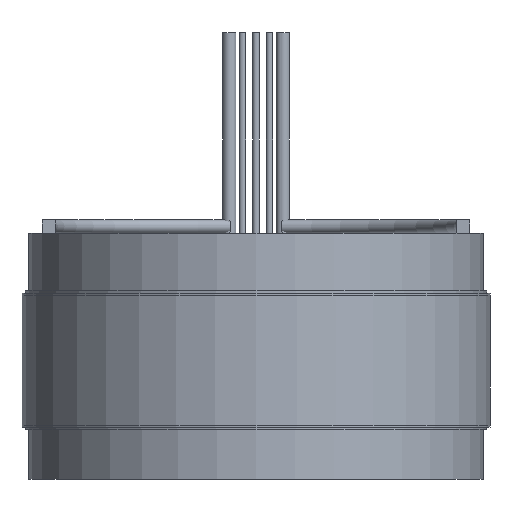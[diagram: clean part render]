
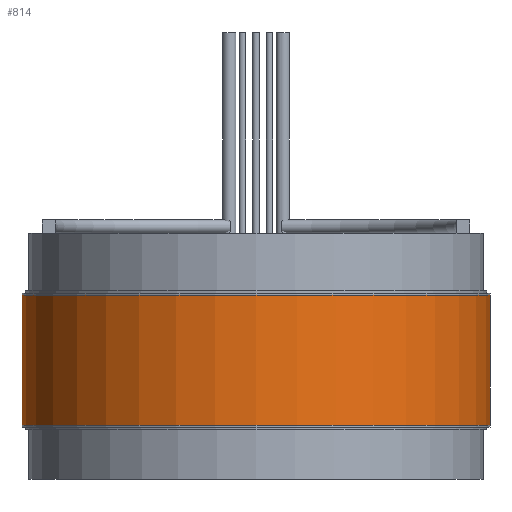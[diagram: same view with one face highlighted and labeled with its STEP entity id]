
A CAD part, front view. The second image highlights one B-rep face of the part: STEP entity #814.
In plain terms, the highlighted cylindrical face has radius 44.45 mm (diameter 88.9 mm), a full revolution.
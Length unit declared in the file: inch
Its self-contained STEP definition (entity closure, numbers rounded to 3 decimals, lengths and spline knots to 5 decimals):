
#40 = DIRECTION ( 'NONE',  ( 1., 0., 0. ) ) ;
#174 = FACE_OUTER_BOUND ( 'NONE', #585, .T. ) ;
#182 = DIRECTION ( 'NONE',  ( 0., 0., 1. ) ) ;
#230 = CARTESIAN_POINT ( 'NONE',  ( 0., 0., 0.486 ) ) ;
#415 = VERTEX_POINT ( 'NONE', #1214 ) ;
#444 = CARTESIAN_POINT ( 'NONE',  ( 0., 0., -0.486 ) ) ;
#517 = DIRECTION ( 'NONE',  ( 1., 0., 0. ) ) ;
#585 = EDGE_LOOP ( 'NONE', ( #777 ) ) ;
#658 = AXIS2_PLACEMENT_3D ( 'NONE', #877, #862, #1281 ) ;
#706 = ORIENTED_EDGE ( 'NONE', *, *, #1018, .F. ) ;
#737 = CYLINDRICAL_SURFACE ( 'NONE', #658, 1.75 ) ;
#777 = ORIENTED_EDGE ( 'NONE', *, *, #1382, .T. ) ;
#814 = ADVANCED_FACE ( 'NONE', ( #911, #174 ), #737, .T. ) ;
#862 = DIRECTION ( 'NONE',  ( 0., 0., 1. ) ) ;
#877 = CARTESIAN_POINT ( 'NONE',  ( 0., 0., -0.52 ) ) ;
#911 = FACE_OUTER_BOUND ( 'NONE', #1384, .T. ) ;
#945 = CARTESIAN_POINT ( 'NONE',  ( 1.75, 0., 0.486 ) ) ;
#953 = CIRCLE ( 'NONE', #1171, 1.75 ) ;
#1018 = EDGE_CURVE ( 'NONE', #1411, #1411, #1639, .T. ) ;
#1171 = AXIS2_PLACEMENT_3D ( 'NONE', #444, #182, #40 ) ;
#1214 = CARTESIAN_POINT ( 'NONE',  ( 1.75, 0., -0.486 ) ) ;
#1281 = DIRECTION ( 'NONE',  ( 1., 0., 0. ) ) ;
#1321 = DIRECTION ( 'NONE',  ( 0., 0., 1. ) ) ;
#1382 = EDGE_CURVE ( 'NONE', #415, #415, #953, .T. ) ;
#1384 = EDGE_LOOP ( 'NONE', ( #706 ) ) ;
#1411 = VERTEX_POINT ( 'NONE', #945 ) ;
#1553 = AXIS2_PLACEMENT_3D ( 'NONE', #230, #1321, #517 ) ;
#1639 = CIRCLE ( 'NONE', #1553, 1.75 ) ;
